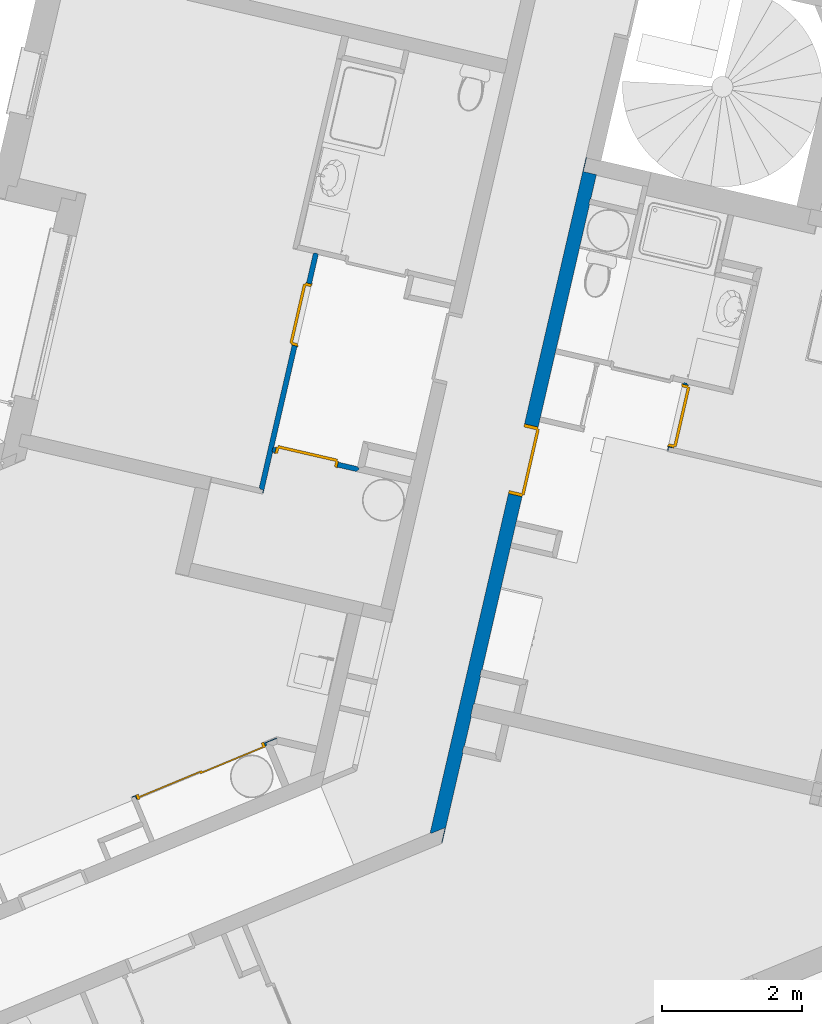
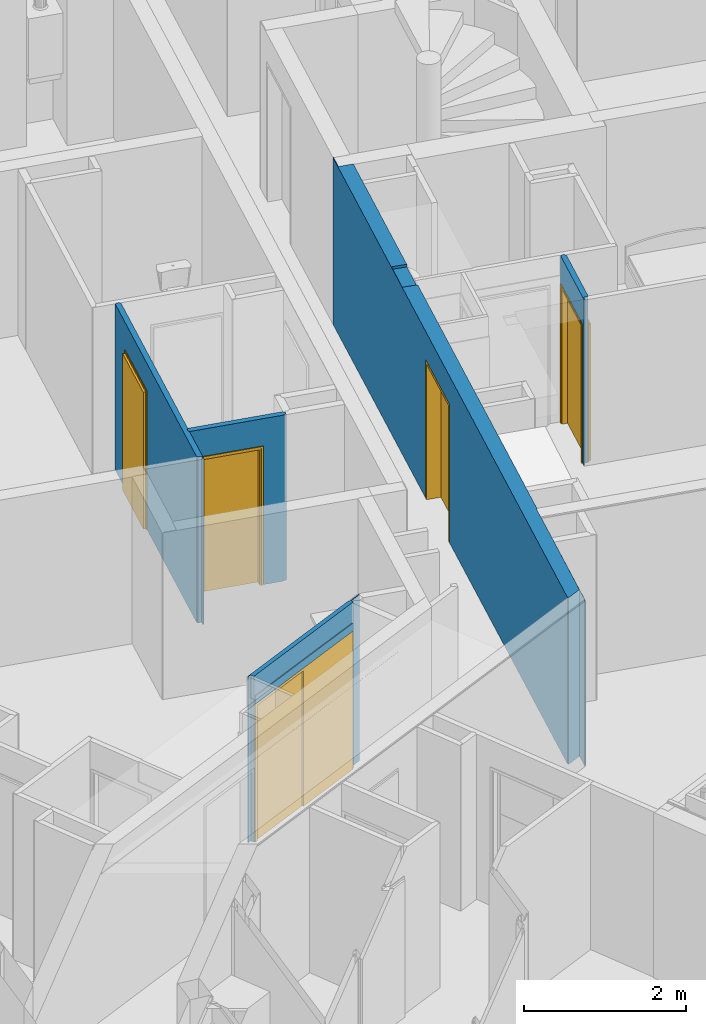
# One storey, part 14 of 91: 5 doors, 5 walls, 5 openings.
"""IFC2X3 building model written with IfcOpenShell, lengths in metres."""

from ifc_helpers import new_model, entity, si_unit, converted_unit, derived_unit, money_unit, direction, frame, origin_with_axes, place, context, subcontext, project, spatial, faceted_brep, source, transform, mapped, material, material_list, type_object, element, fill, save


model = new_model("IFC2X3")

# Units and contexts
model_context = context("Model", 3, precision=1e-05, world=origin_with_axes(), true_north=direction((0.0, 1.0)))
body_context = subcontext(model_context, "Body", "Model", "MODEL_VIEW")
ifc_project = project(units=[si_unit("LENGTHUNIT", "METRE"), si_unit("AREAUNIT", "SQUARE_METRE"), si_unit("VOLUMEUNIT", "CUBIC_METRE"), converted_unit("PLANEANGLEUNIT", "DEGREE", entity("IfcPlaneAngleMeasure", 0.0174532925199), si_unit("PLANEANGLEUNIT", "RADIAN"), dimensions=[0, 0, 0, 0, 0, 0, 0]), si_unit("SOLIDANGLEUNIT", "STERADIAN"), money_unit("EUR"), converted_unit("TIMEUNIT", "Year", entity("IfcTimeMeasure", 31556926.0), si_unit("TIMEUNIT", "SECOND"), dimensions=[0, 0, 1, 0, 0, 0, 0]), si_unit("MASSUNIT", "GRAM", prefix="KILO"), si_unit("THERMODYNAMICTEMPERATUREUNIT", "DEGREE_CELSIUS"), si_unit("LUMINOUSINTENSITYUNIT", "LUMEN"), si_unit("ENERGYUNIT", "JOULE", prefix="MEGA"), derived_unit("THERMALCONDUCTANCEUNIT", [(si_unit("POWERUNIT", "WATT"), 1), (si_unit("LENGTHUNIT", "METRE"), -1), (si_unit("THERMODYNAMICTEMPERATUREUNIT", "KELVIN"), -1)]), derived_unit("SPECIFICHEATCAPACITYUNIT", [(si_unit("ENERGYUNIT", "JOULE"), 1), (si_unit("MASSUNIT", "GRAM", prefix="KILO"), -1), (si_unit("THERMODYNAMICTEMPERATUREUNIT", "KELVIN"), -1)]), derived_unit("MASSDENSITYUNIT", [(si_unit("MASSUNIT", "GRAM", prefix="KILO"), 1), (si_unit("VOLUMEUNIT", "CUBIC_METRE"), -1)])], contexts=[model_context])

# Site, building, storey
site_placement = place(None, origin_with_axes())
site = spatial("IfcSite", under=ifc_project, at=site_placement, Name="Site", CompositionType="ELEMENT")
building_placement = place(site_placement, origin_with_axes())
building = spatial("IfcBuilding", under=site, at=building_placement, Name="Bâtiment", CompositionType="ELEMENT")
storey_placement = place(building_placement, frame((0.0, 0.0, 5.44), z_axis=(0.0, 0.0, 1.0), x_axis=(1.0, 0.0, 0.0)))
storey = spatial("IfcBuildingStorey", under=building, at=storey_placement, Name="R+2", CompositionType="ELEMENT", Elevation=5.44)

# Wall, opening, door
ifc_material_1 = material(Name="Finition int - Plaque de plâtre")
ifc_material_2 = material(Name="Isolation - Laine de roche")
ifc_material_list_1 = material_list([ifc_material_1, ifc_material_2, ifc_material_1])
wall_type_1 = type_object("IfcWallType", Name="3 - Cloison 72mm Placostil 74", PredefinedType="USERDEFINED")
wall_1_placement = place(storey_placement, frame((-17.9705088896, -17.8217225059, 0.0), z_axis=(0.0, 0.0, 1.0), x_axis=(0.923701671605, 0.383112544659, 0.0)))
wall_1 = element("IfcWall", 1, at=wall_1_placement, inside=storey, type_object=wall_type_1, material=ifc_material_list_1, Name="Cloison Placostil 72/48", ObjectType="PARTITIONING", context=body_context, shape_type="Brep", body=[
    faceted_brep([(0.0739999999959, -0.013, 0.0), (0.0739999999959, -0.013, 2.08), (2.05206633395, -0.0129999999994, 2.08), (2.05206633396, -0.0129999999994, 2.5), (0.0129999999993, -0.013, 2.5), (0.0129999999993, -0.013, 0.0), (0.0739999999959, 0.0, 0.0), (0.0739999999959, 0.0, 2.08), (2.05206633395, 0.0, 2.08), (2.05206633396, 0.0, 2.5), (0.013, 0.0, 2.5), (0.013, 0.0, 0.0)], [[[0, 1, 2, 3, 4, 5]], [[1, 0, 6, 7]], [[8, 2, 1, 7]], [[2, 8, 9, 3]], [[3, 9, 10, 4]], [[4, 10, 11, 5]], [[6, 0, 5, 11]], [[7, 6, 11, 10, 9, 8]]]),
    faceted_brep([(0.0739999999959, -0.061, 0.0), (0.0739999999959, -0.061, 2.08), (2.05206633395, -0.061, 2.08), (2.05206633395, -0.061, 0.0), (2.07806634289, -0.061, 0.0), (2.07806634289, -0.061, 2.5), (0.0609999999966, -0.061, 2.5), (0.0609999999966, -0.061, 0.0), (0.0739999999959, -0.013, 0.0), (0.0739999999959, -0.013, 2.08), (2.05206633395, -0.013, 2.08), (2.05206633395, -0.013, 0.0), (2.25206633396, -0.013, 0.0), (2.25206633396, -0.0260000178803, 0.0), (2.24378497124, -0.0260000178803, 0.0), (2.0780663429, -0.0260000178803, 0.0), (2.0780663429, -0.0260000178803, 2.5), (0.0609999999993, -0.013, 2.5), (2.24378497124, -0.0260000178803, 2.5), (2.25206633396, -0.0260000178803, 2.5), (2.25206633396, -0.013, 2.5), (0.0609999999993, -0.013, 0.0)], [[[0, 1, 2, 3, 4, 5, 6, 7]], [[1, 0, 8, 9]], [[2, 1, 9, 10]], [[3, 2, 10, 11]], [[3, 11, 12, 13, 14, 15, 4]], [[16, 5, 4, 15]], [[17, 6, 5, 16, 18, 19, 20]], [[6, 17, 21, 7]], [[8, 0, 7, 21]], [[9, 8, 21, 17, 20, 12, 11, 10]], [[19, 13, 12, 20]], [[19, 18, 16, 15, 14, 13]]]),
    faceted_brep([(0.0739999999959, -0.074, 2.08), (2.05206633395, -0.0739999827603, 2.08), (2.05206633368, -0.0739999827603, 2.2), (0.0739999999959, -0.074, 2.2), (2.05206633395, -0.061, 2.08), (0.0739999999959, -0.061, 2.08), (2.05206633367, -0.061, 2.2), (0.0739999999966, -0.061, 2.2)], [[[0, 1, 2, 3]], [[4, 1, 0, 5]], [[1, 4, 6, 2]], [[2, 6, 7, 3]], [[5, 0, 3, 7]], [[4, 5, 7, 6]]]),
])
opening_1_placement = place(wall_1_placement, frame((1.06303316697, 0.0, 0.0), z_axis=(0.0, 0.0, 1.0), x_axis=(1.0, 0.0, 0.0)))
opening_1 = element("IfcOpeningElement", 2, at=opening_1_placement, cuts=wall_1, Name="Por-002", context=body_context, shape_type="Brep", body=[
    faceted_brep([(0.989033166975, -0.074, 0.0), (-0.989033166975, -0.074, 0.0), (-0.989033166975, 0.074, 0.0), (0.989033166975, 0.074, 0.0), (0.989033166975, -0.074, 2.08), (-0.989033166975, -0.074, 2.08), (-0.989033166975, 0.074, 2.08), (0.989033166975, 0.074, 2.08)], [[[0, 1, 2, 3]], [[0, 4, 5, 1]], [[1, 5, 6, 2]], [[3, 2, 6, 7]], [[4, 0, 3, 7]], [[5, 4, 7, 6]]]),
])
door_style_1 = type_object("IfcDoorStyle", Name="Porte int générique 2019", ConstructionType="NOTDEFINED", OperationType="USERDEFINED", ParameterTakesPrecedence=False, Sizeable=False)
shared_shape_1 = source(origin_with_axes(), body_context, "Body", "Brep", [
    faceted_brep([(-0.989033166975, -0.006, 0.0), (-0.989033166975, -0.006, 2.08), (0.989033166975, -0.006, 2.08), (0.989033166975, -0.006, 0.0), (0.949033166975, -0.006, 0.0), (0.949033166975, -0.006, 2.04), (-0.949033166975, -0.006, 2.04), (-0.949033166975, -0.006, 0.0), (-0.989033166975, -0.08, 0.0), (-0.989033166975, -0.08, 2.08), (0.989033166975, -0.08, 2.08), (0.989033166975, -0.08, 0.0), (0.949033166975, -0.08, 0.0), (0.949033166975, -0.08, 2.04), (-0.949033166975, -0.08, 2.04), (-0.949033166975, -0.08, 0.0)], [[[0, 1, 2, 3, 4, 5, 6, 7]], [[8, 9, 1, 0]], [[9, 10, 2, 1]], [[10, 11, 3, 2]], [[3, 11, 12, 4]], [[5, 4, 12, 13]], [[6, 5, 13, 14]], [[7, 6, 14, 15]], [[0, 7, 15, 8]], [[15, 14, 13, 12, 11, 10, 9, 8]]]),
    faceted_brep([(-0.949033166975, -0.006, 0.0), (0.015, -0.006, 0.0), (0.015, -0.026, 0.0), (-0.949033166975, -0.026, 0.0), (-0.949033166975, -0.006, 2.04), (0.015, -0.006, 2.04), (0.015, -0.026, 2.04), (-0.949033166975, -0.026, 2.04)], [[[0, 1, 2, 3]], [[0, 4, 5, 1]], [[1, 5, 6, 2]], [[3, 2, 6, 7]], [[4, 0, 3, 7]], [[5, 4, 7, 6]]]),
    faceted_brep([(-0.015, -0.026, 0.0), (0.949033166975, -0.026, 0.0), (0.949033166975, -0.046, 0.0), (-0.015, -0.046, 0.0), (-0.015, -0.026, 2.04), (0.949033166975, -0.026, 2.04), (0.949033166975, -0.046, 2.04), (-0.015, -0.046, 2.04)], [[[0, 1, 2, 3]], [[0, 4, 5, 1]], [[1, 5, 6, 2]], [[3, 2, 6, 7]], [[4, 0, 3, 7]], [[5, 4, 7, 6]]]),
])
door_1_placement = place(opening_1_placement, frame((0.949033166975, 0.0, 0.0), z_axis=(0.0, 0.0, 1.0), x_axis=(-1.0, 0.0, 0.0)))
door_1 = element("IfcDoor", 3, at=door_1_placement, inside=storey, type_object=door_style_1, Name="Por-002", ObjectType="DOOR", OverallHeight=2.04, OverallWidth=1.89807, context=body_context, shape_type="MappedRepresentation", body=[
    mapped(shared_shape_1, transform((0.949033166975, 0.08, 0.0))),
])
fill(opening_1, door_1)

wall_2_placement = place(storey_placement, frame((-15.2792202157, -10.0085886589, 0.0), z_axis=(0.0, 0.0, 1.0), x_axis=(-0.224876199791, -0.974387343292, 0.0)))
wall_2 = element("IfcWall", 4, at=wall_2_placement, inside=storey, type_object=wall_type_1, material=ifc_material_list_1, Name="Cloison Placostil 72/48", ObjectType="PARTITIONING", context=body_context, shape_type="Brep", body=[
    faceted_brep([(1.41553279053, 0.0, 0.0), (1.41553279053, 0.0, 2.08), (0.505532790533, 0.0, 2.08), (0.505532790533, 0.0, 0.0), (0.074, 0.0, 0.0), (0.074, 0.0, 2.5), (2.9075327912, 0.0, 2.5), (2.9075327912, 0.0, 0.0), (1.41553279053, -0.013, 0.0), (1.41553279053, -0.013, 2.08), (0.505532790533, -0.013, 2.08), (0.505532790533, -0.013, 0.0), (0.0739999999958, -0.013, 0.0), (0.0739999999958, -0.013, 2.5), (2.9075327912, -0.013, 2.5), (2.9075327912, -0.013, 0.0)], [[[0, 1, 2, 3, 4, 5, 6, 7]], [[1, 0, 8, 9]], [[2, 1, 9, 10]], [[3, 2, 10, 11]], [[3, 11, 12, 4]], [[13, 5, 4, 12]], [[6, 5, 13, 14]], [[14, 15, 7, 6]], [[8, 0, 7, 15]], [[9, 8, 15, 14, 13, 12, 11, 10]]]),
    faceted_brep([(3.56953278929, -0.013, 2.5), (3.56953278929, 0.0, 2.5), (2.9555327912, 0.0, 2.5), (2.9555327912, -0.013, 2.5), (3.56953278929, -0.013, 0.0), (3.56953278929, 0.0, 0.0), (2.9555327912, 0.0, 0.0), (2.9555327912, -0.013, 0.0)], [[[0, 1, 2, 3]], [[1, 0, 4, 5]], [[1, 5, 6, 2]], [[7, 3, 2, 6]], [[4, 0, 3, 7]], [[5, 4, 7, 6]]]),
    faceted_brep([(1.41553279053, -0.013, 0.0), (1.41553279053, -0.013, 2.08), (0.505532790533, -0.013, 2.08), (0.505532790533, -0.013, 0.0), (0.0609999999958, -0.013, 0.0), (0.0609999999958, -0.013, 2.5), (3.52153278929, -0.013, 2.5), (3.52153278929, -0.013, 0.0), (1.41553279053, -0.061, 0.0), (1.41553279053, -0.061, 2.08), (0.505532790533, -0.061, 2.08), (0.505532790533, -0.061, 0.0), (0.0609999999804, -0.061, 0.0), (0.0609999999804, -0.061, 2.5), (3.52153278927, -0.061, 2.5), (3.52153278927, -0.061, 0.0)], [[[0, 1, 2, 3, 4, 5, 6, 7]], [[1, 0, 8, 9]], [[2, 1, 9, 10]], [[3, 2, 10, 11]], [[3, 11, 12, 4]], [[13, 5, 4, 12]], [[6, 5, 13, 14]], [[14, 15, 7, 6]], [[8, 0, 7, 15]], [[9, 8, 15, 14, 13, 12, 11, 10]]]),
    faceted_brep([(1.41553279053, -0.061, 0.0), (1.41553279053, -0.061, 2.08), (0.505532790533, -0.061, 2.08), (0.505532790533, -0.061, 0.0), (0.0739999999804, -0.061, 0.0), (0.0739999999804, -0.061, 2.5), (3.50853278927, -0.061, 2.5), (3.50853278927, -0.061, 0.0), (1.41553279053, -0.074, 0.0), (1.41553279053, -0.074, 2.08), (0.505532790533, -0.074, 2.08), (0.505532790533, -0.074, 0.0), (0.0739999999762, -0.074, 0.0), (0.0739999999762, -0.074, 2.5), (3.50853278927, -0.074, 2.5), (3.50853278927, -0.074, 0.0)], [[[0, 1, 2, 3, 4, 5, 6, 7]], [[1, 0, 8, 9]], [[2, 1, 9, 10]], [[3, 2, 10, 11]], [[3, 11, 12, 4]], [[13, 5, 4, 12]], [[6, 5, 13, 14]], [[14, 15, 7, 6]], [[8, 0, 7, 15]], [[9, 8, 15, 14, 13, 12, 11, 10]]]),
])
opening_2_placement = place(wall_2_placement, frame((0.960532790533, 0.0, 0.0), z_axis=(0.0, 0.0, 1.0), x_axis=(1.0, 0.0, 0.0)))
opening_2 = element("IfcOpeningElement", 5, at=opening_2_placement, cuts=wall_2, Name="Porte 83x204 bois alvéolaire", context=body_context, shape_type="Brep", body=[
    faceted_brep([(-0.455, 0.074, 0.0), (0.455, 0.074, 0.0), (0.455, -0.074, 0.0), (-0.455, -0.074, 0.0), (-0.455, 0.074, 2.08), (0.455, 0.074, 2.08), (0.455, -0.074, 2.08), (-0.455, -0.074, 2.08)], [[[0, 1, 2, 3]], [[0, 4, 5, 1]], [[1, 5, 6, 2]], [[3, 2, 6, 7]], [[4, 0, 3, 7]], [[5, 4, 7, 6]]]),
])
door_style_2 = type_object("IfcDoorStyle", Name="Porte int générique 2019", ConstructionType="NOTDEFINED", OperationType="SINGLE_SWING_RIGHT", ParameterTakesPrecedence=False, Sizeable=False)
shared_shape_2 = source(origin_with_axes(), body_context, "Body", "Brep", [
    faceted_brep([(0.455, 0.0, 0.0), (0.415, 0.0, 0.0), (0.415, 0.0, 2.04), (-0.415, 0.0, 2.04), (-0.415, 0.0, 0.0), (-0.455, 0.0, 0.0), (-0.455, 0.0, 2.08), (0.455, 0.0, 2.08), (0.455, -0.074, 0.0), (0.415, -0.074, 0.0), (0.415, -0.074, 2.04), (-0.415, -0.074, 2.04), (-0.415, -0.074, 0.0), (-0.455, -0.074, 0.0), (-0.455, -0.074, 2.08), (0.455, -0.074, 2.08)], [[[0, 1, 2, 3, 4, 5, 6, 7]], [[0, 8, 9, 1]], [[1, 9, 10, 2]], [[2, 10, 11, 3]], [[3, 11, 12, 4]], [[5, 4, 12, 13]], [[14, 6, 5, 13]], [[15, 7, 6, 14]], [[8, 0, 7, 15]], [[9, 8, 15, 14, 13, 12, 11, 10]]]),
    faceted_brep([(0.465, 0.0, 0.0), (0.465, 0.01, 0.0), (0.465, 0.01, 2.09), (0.465, 0.0, 2.09), (0.435, 0.0, 0.0), (0.435, 0.01, 0.0), (0.435, 0.01, 2.06), (-0.435, 0.01, 2.06), (-0.435, 0.01, 0.0), (-0.465, 0.01, 0.0), (-0.465, 0.01, 2.09), (-0.465, 0.0, 2.09), (-0.465, 0.0, 0.0), (-0.435, 0.0, 0.0), (-0.435, 0.0, 2.06), (0.435, 0.0, 2.06)], [[[0, 1, 2, 3]], [[0, 4, 5, 1]], [[1, 5, 6, 7, 8, 9, 10, 2]], [[3, 2, 10, 11]], [[4, 0, 3, 11, 12, 13, 14, 15]], [[5, 4, 15, 6]], [[6, 15, 14, 7]], [[7, 14, 13, 8]], [[12, 9, 8, 13]], [[11, 10, 9, 12]]]),
    faceted_brep([(0.465, -0.084, 0.0), (0.465, -0.074, 0.0), (0.465, -0.074, 2.09), (0.465, -0.084, 2.09), (0.435, -0.084, 0.0), (0.435, -0.074, 0.0), (0.435, -0.074, 2.06), (-0.435, -0.074, 2.06), (-0.435, -0.074, 0.0), (-0.465, -0.074, 0.0), (-0.465, -0.074, 2.09), (-0.465, -0.084, 2.09), (-0.465, -0.084, 0.0), (-0.435, -0.084, 0.0), (-0.435, -0.084, 2.06), (0.435, -0.084, 2.06)], [[[0, 1, 2, 3]], [[0, 4, 5, 1]], [[1, 5, 6, 7, 8, 9, 10, 2]], [[3, 2, 10, 11]], [[4, 0, 3, 11, 12, 13, 14, 15]], [[5, 4, 15, 6]], [[6, 15, 14, 7]], [[7, 14, 13, 8]], [[12, 9, 8, 13]], [[11, 10, 9, 12]]]),
    faceted_brep([(0.435, 0.04, 0.0), (0.435, 0.0, 0.0), (-0.435, 0.0, 0.0), (-0.435, 0.04, 0.0), (0.435, 0.04, 2.06), (0.435, 0.0, 2.06), (-0.435, 0.0, 2.06), (-0.435, 0.04, 2.06)], [[[0, 1, 2, 3]], [[4, 5, 1, 0]], [[1, 5, 6, 2]], [[3, 2, 6, 7]], [[0, 3, 7, 4]], [[7, 6, 5, 4]]]),
])
door_2_placement = place(opening_2_placement, frame((0.415, 0.0, 0.0), z_axis=(0.0, 0.0, 1.0), x_axis=(-1.0, 0.0, 0.0)))
door_2 = element("IfcDoor", 6, at=door_2_placement, inside=storey, type_object=door_style_2, Name="Porte 83x204 bois alvéolaire", ObjectType="DOOR", OverallHeight=2.04, OverallWidth=0.83, context=body_context, shape_type="MappedRepresentation", body=[
    mapped(shared_shape_2, transform((0.415, 0.074, 0.0))),
])
fill(opening_2, door_2)

wall_3_placement = place(storey_placement, frame((-10.0951323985, -11.9149284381, 0.0), z_axis=(0.0, 0.0, 1.0), x_axis=(-0.224876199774, -0.974387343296, 0.0)))
wall_3 = element("IfcWall", 7, at=wall_3_placement, inside=storey, type_object=wall_type_1, material=ifc_material_list_1, Name="Cloison Placostil 72/48", ObjectType="PARTITIONING", context=body_context, shape_type="Brep", body=[
    faceted_brep([(0.924626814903, 0.074, 0.0), (0.924626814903, 0.074, 2.08), (0.0146268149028, 0.074, 2.08), (0.0146268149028, 0.074, 0.0), (-8.62350191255e-10, 0.074, 0.0), (-8.62350191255e-10, 0.074, 2.5), (0.924833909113, 0.074, 2.5), (0.924833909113, 0.074, 0.0), (0.924626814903, 0.061, 0.0), (0.924626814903, 0.061, 2.08), (0.0146268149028, 0.061, 2.08), (0.0146268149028, 0.061, 0.0), (-8.6346041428e-10, 0.061, 0.0), (-8.6346041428e-10, 0.061, 2.5), (0.924833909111, 0.061, 2.5), (0.924833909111, 0.061, 0.0)], [[[0, 1, 2, 3, 4, 5, 6, 7]], [[1, 0, 8, 9]], [[2, 1, 9, 10]], [[3, 2, 10, 11]], [[3, 11, 12, 4]], [[4, 12, 13, 5]], [[6, 5, 13, 14]], [[7, 6, 14, 15]], [[8, 0, 7, 15]], [[9, 8, 15, 14, 13, 12, 11, 10]]]),
    faceted_brep([(0.924626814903, 0.061, 0.0), (0.924626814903, 0.061, 2.08), (0.0146268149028, 0.061, 2.08), (0.0146268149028, 0.061, 0.0), (-0.0130000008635, 0.061, 0.0), (-0.0130000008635, 0.061, 2.5), (0.937833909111, 0.061, 2.5), (0.937833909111, 0.061, 0.0), (0.924626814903, 0.013, 0.0), (0.924626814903, 0.013, 2.08), (0.0146268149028, 0.013, 2.08), (0.0146268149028, 0.013, 0.0), (-0.0130000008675, 0.013, 0.0), (-0.0130000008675, 0.013, 2.5), (0.937833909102, 0.013, 2.5), (0.937833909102, 0.013, 0.0)], [[[0, 1, 2, 3, 4, 5, 6, 7]], [[1, 0, 8, 9]], [[2, 1, 9, 10]], [[3, 2, 10, 11]], [[3, 11, 12, 4]], [[4, 12, 13, 5]], [[6, 5, 13, 14]], [[7, 6, 14, 15]], [[8, 0, 7, 15]], [[9, 8, 15, 14, 13, 12, 11, 10]]]),
    faceted_brep([(0.924626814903, 0.013, 0.0), (0.924626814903, 0.013, 2.08), (0.0146268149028, 0.013, 2.08), (0.0146268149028, 0.013, 0.0), (-8.67549587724e-10, 0.013, 0.0), (-8.67549587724e-10, 0.013, 2.5), (0.985833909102, 0.013, 2.5), (0.985833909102, 0.013, 0.0), (0.924626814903, 0.0, 0.0), (0.924626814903, 0.0, 2.08), (0.0146268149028, 0.0, 2.08), (0.0146268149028, 0.0, 0.0), (-8.68658034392e-10, 0.0, 0.0), (-8.68658034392e-10, 0.0, 2.5), (0.9858339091, 0.0, 2.5), (0.9858339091, 0.0, 0.0)], [[[0, 1, 2, 3, 4, 5, 6, 7]], [[1, 0, 8, 9]], [[2, 1, 9, 10]], [[3, 2, 10, 11]], [[3, 11, 12, 4]], [[4, 12, 13, 5]], [[6, 5, 13, 14]], [[7, 6, 14, 15]], [[8, 0, 7, 15]], [[9, 8, 15, 14, 13, 12, 11, 10]]]),
])
opening_3_placement = place(wall_3_placement, frame((0.469626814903, 0.0, 0.0), z_axis=(0.0, 0.0, 1.0), x_axis=(1.0, 0.0, 0.0)))
opening_3 = element("IfcOpeningElement", 8, at=opening_3_placement, cuts=wall_3, Name="Porte 83x204 bois alvéolaire", context=body_context, shape_type="Brep", body=[
    faceted_brep([(0.455, -0.074, 0.0), (-0.455, -0.074, 0.0), (-0.455, 0.074, 0.0), (0.455, 0.074, 0.0), (0.455, -0.074, 2.08), (-0.455, -0.074, 2.08), (-0.455, 0.074, 2.08), (0.455, 0.074, 2.08)], [[[0, 1, 2, 3]], [[0, 4, 5, 1]], [[1, 5, 6, 2]], [[3, 2, 6, 7]], [[4, 0, 3, 7]], [[5, 4, 7, 6]]]),
])
door_3_placement = place(opening_3_placement, frame((-0.415, 0.0, 0.0), z_axis=(0.0, 0.0, 1.0), x_axis=(1.0, 0.0, 0.0)))
door_3 = element("IfcDoor", 9, at=door_3_placement, inside=storey, type_object=door_style_2, Name="Porte 83x204 bois alvéolaire", ObjectType="DOOR", OverallHeight=2.04, OverallWidth=0.83, context=body_context, shape_type="MappedRepresentation", body=[
    mapped(shared_shape_2, transform((0.415, 0.074, 0.0))),
])
fill(opening_3, door_3)

wall_4_placement = place(storey_placement, frame((-15.9301317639, -12.8289847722, 0.0), z_axis=(0.0, 0.0, 1.0), x_axis=(0.974387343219, -0.224876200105, 0.0)))
wall_4 = element("IfcWall", 10, at=wall_4_placement, inside=storey, type_object=wall_type_1, material=ifc_material_list_1, Name="Cloison Placostil 72/48", ObjectType="PARTITIONING", context=body_context, shape_type="Brep", body=[
    faceted_brep([(0.0335988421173, 0.0, 2.08), (0.0335988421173, 0.0, 0.0), (1.42474494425e-08, 0.0, 0.0), (1.42474494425e-08, 0.0, 2.5), (1.22600001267, 0.0, 2.5), (1.22600001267, 0.0, 0.0), (0.943598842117, 0.0, 0.0), (0.943598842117, 0.0, 2.08), (0.0335988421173, -0.013, 2.08), (0.0335988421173, -0.013, 0.0), (1.42516451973e-08, -0.013, 0.0), (1.42516451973e-08, -0.013, 2.5), (1.22600001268, -0.013, 2.5), (1.22600001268, -0.013, 0.0), (0.943598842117, -0.013, 0.0), (0.943598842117, -0.013, 2.08)], [[[0, 1, 2, 3, 4, 5, 6, 7]], [[1, 0, 8, 9]], [[1, 9, 10, 2]], [[11, 3, 2, 10]], [[4, 3, 11, 12]], [[12, 13, 5, 4]], [[14, 6, 5, 13]], [[7, 6, 14, 15]], [[0, 7, 15, 8]], [[15, 14, 13, 12, 11, 10, 9, 8]]]),
    faceted_brep([(0.0335988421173, -0.013, 2.08), (0.0335988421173, -0.013, 0.0), (-0.0129999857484, -0.013, 0.0), (-0.0129999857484, -0.013, 2.5), (1.25200001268, -0.013, 2.5), (1.25200001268, -0.013, 0.0), (0.943598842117, -0.013, 0.0), (0.943598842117, -0.013, 2.08), (0.0335988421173, -0.061, 2.08), (0.0335988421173, -0.061, 0.0), (-0.0129999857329, -0.061, 0.0), (-0.0129999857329, -0.061, 2.5), (1.25200001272, -0.061, 2.5), (1.25200001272, -0.061, 0.0), (0.943598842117, -0.061, 0.0), (0.943598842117, -0.061, 2.08)], [[[0, 1, 2, 3, 4, 5, 6, 7]], [[1, 0, 8, 9]], [[1, 9, 10, 2]], [[11, 3, 2, 10]], [[4, 3, 11, 12]], [[12, 13, 5, 4]], [[14, 6, 5, 13]], [[7, 6, 14, 15]], [[0, 7, 15, 8]], [[15, 14, 13, 12, 11, 10, 9, 8]]]),
    faceted_brep([(0.0335988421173, -0.061, 2.08), (0.0335988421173, -0.061, 0.0), (1.42671279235e-08, -0.061, 0.0), (1.42671279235e-08, -0.061, 2.5), (1.22600001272, -0.061, 2.5), (1.22600001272, -0.061, 0.0), (0.943598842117, -0.061, 0.0), (0.943598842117, -0.061, 2.08), (0.0335988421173, -0.074, 2.08), (0.0335988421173, -0.074, 0.0), (1.42713236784e-08, -0.074, 0.0), (1.42713236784e-08, -0.074, 2.5), (1.22600001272, -0.074, 2.5), (1.22600001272, -0.074, 0.0), (0.943598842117, -0.074, 0.0), (0.943598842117, -0.074, 2.08)], [[[0, 1, 2, 3, 4, 5, 6, 7]], [[1, 0, 8, 9]], [[1, 9, 10, 2]], [[11, 3, 2, 10]], [[4, 3, 11, 12]], [[12, 13, 5, 4]], [[14, 6, 5, 13]], [[7, 6, 14, 15]], [[0, 7, 15, 8]], [[15, 14, 13, 12, 11, 10, 9, 8]]]),
])
opening_4_placement = place(wall_4_placement, frame((0.488598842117, 0.0, 0.0), z_axis=(0.0, 0.0, 1.0), x_axis=(1.0, 0.0, 0.0)))
opening_4 = element("IfcOpeningElement", 11, at=opening_4_placement, cuts=wall_4, Name="Porte 83x204 bois alvéolaire", context=body_context, shape_type="Brep", body=[
    faceted_brep([(-0.455, 0.074, 0.0), (0.455, 0.074, 0.0), (0.455, -0.074, 0.0), (-0.455, -0.074, 0.0), (-0.455, 0.074, 2.08), (0.455, 0.074, 2.08), (0.455, -0.074, 2.08), (-0.455, -0.074, 2.08)], [[[0, 1, 2, 3]], [[0, 4, 5, 1]], [[1, 5, 6, 2]], [[3, 2, 6, 7]], [[4, 0, 3, 7]], [[5, 4, 7, 6]]]),
])
door_style_3 = type_object("IfcDoorStyle", Name="Porte int générique 2019", ConstructionType="NOTDEFINED", OperationType="SINGLE_SWING_LEFT", ParameterTakesPrecedence=False, Sizeable=False)
shared_shape_3 = source(origin_with_axes(), body_context, "Body", "Brep", [
    faceted_brep([(-0.455, 0.0, 0.0), (-0.455, 0.0, 2.08), (0.455, 0.0, 2.08), (0.455, 0.0, 0.0), (0.415, 0.0, 0.0), (0.415, 0.0, 2.04), (-0.415, 0.0, 2.04), (-0.415, 0.0, 0.0), (-0.455, -0.074, 0.0), (-0.455, -0.074, 2.08), (0.455, -0.074, 2.08), (0.455, -0.074, 0.0), (0.415, -0.074, 0.0), (0.415, -0.074, 2.04), (-0.415, -0.074, 2.04), (-0.415, -0.074, 0.0)], [[[0, 1, 2, 3, 4, 5, 6, 7]], [[8, 9, 1, 0]], [[9, 10, 2, 1]], [[10, 11, 3, 2]], [[3, 11, 12, 4]], [[5, 4, 12, 13]], [[6, 5, 13, 14]], [[7, 6, 14, 15]], [[0, 7, 15, 8]], [[15, 14, 13, 12, 11, 10, 9, 8]]]),
    faceted_brep([(-0.465, 0.0, 0.0), (-0.465, 0.0, 2.09), (-0.465, 0.01, 2.09), (-0.465, 0.01, 0.0), (-0.435, 0.0, 0.0), (-0.435, 0.0, 2.06), (0.435, 0.0, 2.06), (0.435, 0.0, 0.0), (0.465, 0.0, 0.0), (0.465, 0.0, 2.09), (0.465, 0.01, 2.09), (0.465, 0.01, 0.0), (0.435, 0.01, 0.0), (0.435, 0.01, 2.06), (-0.435, 0.01, 2.06), (-0.435, 0.01, 0.0)], [[[0, 1, 2, 3]], [[4, 5, 6, 7, 8, 9, 1, 0]], [[1, 9, 10, 2]], [[3, 2, 10, 11, 12, 13, 14, 15]], [[0, 3, 15, 4]], [[15, 14, 5, 4]], [[14, 13, 6, 5]], [[13, 12, 7, 6]], [[8, 7, 12, 11]], [[9, 8, 11, 10]]]),
    faceted_brep([(-0.465, -0.084, 0.0), (-0.465, -0.084, 2.09), (-0.465, -0.074, 2.09), (-0.465, -0.074, 0.0), (-0.435, -0.084, 0.0), (-0.435, -0.084, 2.06), (0.435, -0.084, 2.06), (0.435, -0.084, 0.0), (0.465, -0.084, 0.0), (0.465, -0.084, 2.09), (0.465, -0.074, 2.09), (0.465, -0.074, 0.0), (0.435, -0.074, 0.0), (0.435, -0.074, 2.06), (-0.435, -0.074, 2.06), (-0.435, -0.074, 0.0)], [[[0, 1, 2, 3]], [[4, 5, 6, 7, 8, 9, 1, 0]], [[1, 9, 10, 2]], [[3, 2, 10, 11, 12, 13, 14, 15]], [[0, 3, 15, 4]], [[15, 14, 5, 4]], [[14, 13, 6, 5]], [[13, 12, 7, 6]], [[8, 7, 12, 11]], [[9, 8, 11, 10]]]),
    faceted_brep([(-0.435, 0.04, 0.0), (0.435, 0.04, 0.0), (0.435, 0.0, 0.0), (-0.435, 0.0, 0.0), (-0.435, 0.04, 2.06), (0.435, 0.04, 2.06), (0.435, 0.0, 2.06), (-0.435, 0.0, 2.06)], [[[0, 1, 2, 3]], [[0, 4, 5, 1]], [[1, 5, 6, 2]], [[3, 2, 6, 7]], [[4, 0, 3, 7]], [[5, 4, 7, 6]]]),
])
door_4_placement = place(opening_4_placement, frame((-0.415, 0.0, 0.0), z_axis=(0.0, 0.0, 1.0), x_axis=(1.0, 0.0, 0.0)))
door_4 = element("IfcDoor", 12, at=door_4_placement, inside=storey, type_object=door_style_3, Name="Porte 83x204 bois alvéolaire", ObjectType="DOOR", OverallHeight=2.04, OverallWidth=0.83, context=body_context, shape_type="MappedRepresentation", body=[
    mapped(shared_shape_3, transform((0.415, 0.0, 0.0))),
])
fill(opening_4, door_4)

ifc_material_3 = material(Name="Finition int - Enduit plâtre")
ifc_material_4 = material(Name="Béton")
ifc_material_list_2 = material_list([ifc_material_3, ifc_material_4, ifc_material_3])
wall_type_2 = type_object("IfcWallType", Name="2 - Murs Béton 18 + Enduit 2 Faces 200", PredefinedType="USERDEFINED")
wall_5_placement = place(storey_placement, frame((-11.4688567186, -8.70667246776, 0.0), z_axis=(0.0, 0.0, 1.0), x_axis=(-0.224876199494, -0.97438734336, 0.0)))
wall_5 = element("IfcWall", 13, at=wall_5_placement, inside=storey, type_object=wall_type_2, material=ifc_material_list_2, Name="M_Ext-009", ObjectType="SOLIDWALL", context=body_context, shape_type="Brep", body=[
    faceted_brep([(4.91100000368, 0.19, 0.0), (4.91100000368, 0.19, 2.085), (3.89100000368, 0.19, 2.085), (3.89100000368, 0.19, 0.0), (0.629000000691, 0.19, 0.0), (0.629000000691, 0.19, 2.5), (0.555000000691, 0.19, 2.5), (0.555000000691, 0.19, 0.0), (0.195000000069, 0.19, 0.0), (0.195000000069, 0.19, 2.51), (2.45069493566, 0.19, 2.51), (2.45069493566, 0.19, 2.47), (2.90948550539, 0.19, 2.47), (2.90948550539, 0.19, 2.51), (7.94700767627, 0.19, 2.51), (7.94700767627, 0.19, 0.0), (7.5433608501, 0.19, 0.0), (7.5433608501, 0.19, 2.5), (7.4433608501, 0.19, 2.5), (7.4433608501, 0.19, 0.0), (4.91100000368, 0.18, 0.0), (4.91100000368, 0.18, 2.085), (3.89100000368, 0.18, 2.085), (3.89100000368, 0.18, 0.0), (0.629000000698, 0.18, 0.0), (0.629000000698, 0.18, 2.5), (0.555000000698, 0.18, 2.5), (0.555000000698, 0.18, 0.0), (0.195000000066, 0.18, 0.0), (0.195000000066, 0.18, 2.51), (2.45057043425, 0.18, 2.51), (2.45057043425, 0.18, 2.47), (2.91060608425, 0.18, 2.47), (2.9107303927, 0.189984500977, 2.47), (2.9107303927, 0.189984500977, 2.51), (7.94700767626, 0.18, 2.51), (2.91060608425, 0.18, 2.51), (7.94700767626, 0.18, 0.0), (7.54336085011, 0.18, 0.0), (7.54336085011, 0.18, 2.5), (7.44336085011, 0.18, 2.5), (7.44336085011, 0.18, 0.0)], [[[0, 1, 2, 3, 4, 5, 6, 7, 8, 9, 10, 11, 12, 13, 14, 15, 16, 17, 18, 19]], [[1, 0, 20, 21]], [[2, 1, 21, 22]], [[3, 2, 22, 23]], [[3, 23, 24, 4]], [[25, 5, 4, 24]], [[26, 6, 5, 25]], [[27, 7, 6, 26]], [[8, 7, 27, 28]], [[29, 9, 8, 28]], [[10, 9, 29, 30]], [[10, 30, 31, 11]], [[31, 32, 33, 12, 11]], [[13, 12, 33, 34]], [[35, 14, 13, 34, 36]], [[35, 37, 15, 14]], [[37, 38, 16, 15]], [[39, 17, 16, 38]], [[39, 40, 18, 17]], [[41, 19, 18, 40]], [[20, 0, 19, 41]], [[21, 20, 41, 40, 39, 38, 37, 35, 36, 32, 31, 30, 29, 28, 27, 26, 25, 24, 23, 22]], [[34, 33, 32, 36]]]),
    faceted_brep([(8.12700771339, 0.182263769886, 2.51), (8.12700771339, 0.182263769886, 2.49), (8.12700771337, 0.19, 2.49), (8.12700767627, 0.19, 0.0), (8.12700767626, 0.18, 0.0), (8.12700767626, 0.18, 2.51), (9.98185978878, 0.18, 2.51), (9.98185978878, 0.18, 2.49), (8.66700767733, 0.181604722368, 2.49), (8.66700767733, 0.181604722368, 2.5), (8.56700767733, 0.181726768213, 2.5), (8.56700767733, 0.181726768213, 2.49), (8.56700767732, 0.19, 2.49), (8.56700767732, 0.19, 0.0), (8.56700767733, 0.18, 0.0), (8.56700767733, 0.18, 2.5), (8.66700767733, 0.18, 2.5), (8.66700767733, 0.18, 0.0), (9.98185978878, 0.18, 0.0), (9.97472100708, 0.19, 2.49), (8.66700767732, 0.19, 2.49), (8.66700767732, 0.19, 0.0), (9.97472100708, 0.19, 0.0)], [[[0, 1, 2, 3, 4, 5]], [[1, 0, 6, 7, 8, 9, 10, 11]], [[12, 2, 1, 11]], [[2, 12, 13, 3]], [[3, 13, 14, 4]], [[7, 6, 5, 4, 14, 15, 16, 17, 18]], [[6, 0, 5]], [[19, 20, 8, 7]], [[8, 20, 21, 17, 16, 9]], [[10, 9, 16, 15]], [[11, 10, 15, 14, 13, 12]], [[18, 17, 21, 22]], [[19, 7, 18, 22]], [[20, 19, 22, 21]]]),
    faceted_brep([(4.91100000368, 0.18, 0.0), (4.91100000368, 0.18, 2.085), (3.89100000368, 0.18, 2.085), (3.89100000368, 0.18, 0.0), (0.195000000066, 0.18, 0.0), (0.195000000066, 0.18, 2.51), (2.45057043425, 0.18, 2.51), (2.45057043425, 0.18, 2.47), (2.91060608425, 0.18, 2.47), (2.91060608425, 0.18, 2.51), (9.76069976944, 0.18, 2.51), (9.76069976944, 0.18, 0.0), (4.91100000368, 0.0, 0.0), (4.91100000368, 0.0, 2.085), (3.89100000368, 0.0, 2.085), (3.89100000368, 0.0, 0.0), (0.195, 0.0, 0.0), (0.195, 0.0, 2.51), (2.44832940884, 0.0, 2.51), (2.44832940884, 0.0, 2.47), (2.90836505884, 0.0, 2.47), (2.90836505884, 0.0, 2.51), (9.88919784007, 0.0, 2.51), (9.88919784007, 0.0, 0.0)], [[[0, 1, 2, 3, 4, 5, 6, 7, 8, 9, 10, 11]], [[1, 0, 12, 13]], [[2, 1, 13, 14]], [[3, 2, 14, 15]], [[3, 15, 16, 4]], [[5, 4, 16, 17]], [[6, 5, 17, 18]], [[6, 18, 19, 7]], [[7, 19, 20, 8]], [[9, 8, 20, 21]], [[21, 22, 10, 9]], [[23, 11, 10, 22]], [[12, 0, 11, 23]], [[13, 12, 23, 22, 21, 20, 19, 18, 17, 16, 15, 14]]]),
    faceted_brep([(4.91100000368, 0.0, 0.0), (4.91100000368, 0.0, 2.085), (3.89100000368, 0.0, 2.085), (3.89100000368, 0.0, 0.0), (-0.015, 0.0, 0.0), (-0.015, 0.0, 2.51), (2.44832940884, 0.0, 2.51), (2.44832940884, 0.0, 2.47), (2.90836505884, 0.0, 2.47), (2.90836505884, 0.0, 2.51), (9.87691117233, 0.0, 2.51), (9.87691117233, 0.0, 0.0), (4.91100000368, -0.01, 0.0), (4.91100000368, -0.01, 2.085), (3.89100000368, -0.01, 2.085), (3.89100000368, -0.01, 0.0), (-0.0150000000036, -0.01, 0.0), (-0.0150000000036, -0.01, 2.51), (2.90824055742, -0.010000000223, 2.51), (2.44827620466, -0.00427337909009, 2.51), (2.44827620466, -0.00427337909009, 2.47), (2.90824055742, -0.010000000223, 2.47), (9.88404995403, -0.01, 2.51), (9.88404995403, -0.01, 0.0)], [[[0, 1, 2, 3, 4, 5, 6, 7, 8, 9, 10, 11]], [[1, 0, 12, 13]], [[2, 1, 13, 14]], [[3, 2, 14, 15]], [[3, 15, 16, 4]], [[5, 4, 16, 17]], [[6, 5, 17, 18, 19]], [[6, 19, 20, 7]], [[7, 20, 21, 8]], [[9, 8, 21, 18]], [[18, 22, 10, 9]], [[23, 11, 10, 22]], [[12, 0, 11, 23]], [[13, 12, 23, 22, 18, 17, 16, 15, 14]], [[18, 21, 20, 19]]]),
])
opening_5_placement = place(wall_5_placement, frame((4.40100000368, 0.0, 0.0), z_axis=(0.0, 0.0, 1.0), x_axis=(1.0, 0.0, 0.0)))
opening_5 = element("IfcOpeningElement", 14, at=opening_5_placement, cuts=wall_5, Name="Porte 93x204 bois blindée", context=body_context, shape_type="Brep", body=[
    faceted_brep([(-0.51, 0.2, 0.0), (0.51, 0.2, 0.0), (0.51, -0.2, 0.0), (-0.51, -0.2, 0.0), (-0.51, 0.2, 2.085), (0.51, 0.2, 2.085), (0.51, -0.2, 2.085), (-0.51, -0.2, 2.085)], [[[0, 1, 2, 3]], [[0, 4, 5, 1]], [[1, 5, 6, 2]], [[3, 2, 6, 7]], [[4, 0, 3, 7]], [[5, 4, 7, 6]]]),
])
door_style_4 = type_object("IfcDoorStyle", Name="Porte int générique 2019", ConstructionType="NOTDEFINED", OperationType="SINGLE_SWING_LEFT", ParameterTakesPrecedence=False, Sizeable=False)
shared_shape_4 = source(origin_with_axes(), body_context, "Body", "Brep", [
    faceted_brep([(-0.51, 0.0, 0.0), (-0.51, 0.0, 2.085), (0.51, 0.0, 2.085), (0.51, 0.0, 0.0), (0.48, 0.0, 0.0), (0.48, 0.0, 2.055), (-0.48, 0.0, 2.055), (-0.48, 0.0, 0.0), (-0.51, -0.2, 0.0), (-0.51, -0.2, 2.085), (0.51, -0.2, 2.085), (0.51, -0.2, 0.0), (0.465, -0.2, 0.0), (0.465, -0.015, 0.0), (0.48, -0.015, 0.0), (0.48, -0.015, 2.055), (-0.48, -0.015, 2.055), (-0.48, -0.015, 0.0), (-0.465, -0.015, 0.0), (-0.465, -0.2, 0.0), (-0.465, -0.2, 2.04), (0.465, -0.2, 2.04), (0.465, -0.015, 2.04), (-0.465, -0.015, 2.04)], [[[0, 1, 2, 3, 4, 5, 6, 7]], [[8, 9, 1, 0]], [[9, 10, 2, 1]], [[10, 11, 3, 2]], [[3, 11, 12, 13, 14, 4]], [[5, 4, 14, 15]], [[6, 5, 15, 16]], [[7, 6, 16, 17]], [[0, 7, 17, 18, 19, 8]], [[19, 20, 21, 12, 11, 10, 9, 8]], [[22, 13, 12, 21]], [[17, 16, 15, 14, 13, 22, 23, 18]], [[18, 23, 20, 19]], [[23, 22, 21, 20]]]),
    faceted_brep([(-0.48, 0.025, 0.0), (0.48, 0.025, 0.0), (0.48, -0.015, 0.0), (-0.48, -0.015, 0.0), (-0.48, 0.025, 2.055), (0.48, 0.025, 2.055), (0.48, -0.015, 2.055), (-0.48, -0.015, 2.055)], [[[0, 1, 2, 3]], [[0, 4, 5, 1]], [[1, 5, 6, 2]], [[3, 2, 6, 7]], [[4, 0, 3, 7]], [[5, 4, 7, 6]]]),
])
door_5_placement = place(opening_5_placement, frame((-0.465, 0.0, 0.0), z_axis=(0.0, 0.0, 1.0), x_axis=(1.0, 0.0, 0.0)))
door_5 = element("IfcDoor", 15, at=door_5_placement, inside=storey, type_object=door_style_4, Name="Porte 93x204 bois blindée", ObjectType="DOOR", OverallHeight=2.04, OverallWidth=0.93, context=body_context, shape_type="MappedRepresentation", body=[
    mapped(shared_shape_4, transform((0.465, 0.19, 0.0))),
])
fill(opening_5, door_5)

save(model, "model.ifc")
